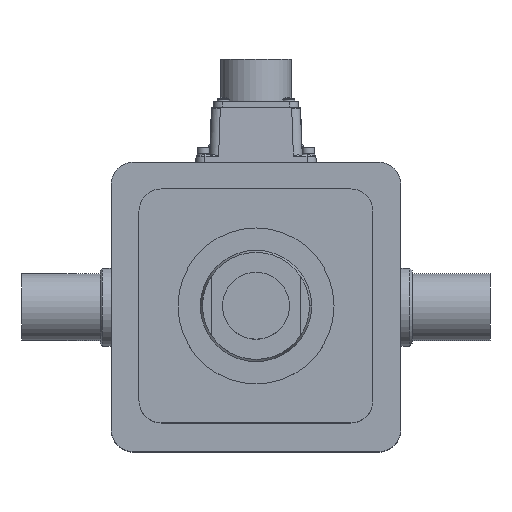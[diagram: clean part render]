
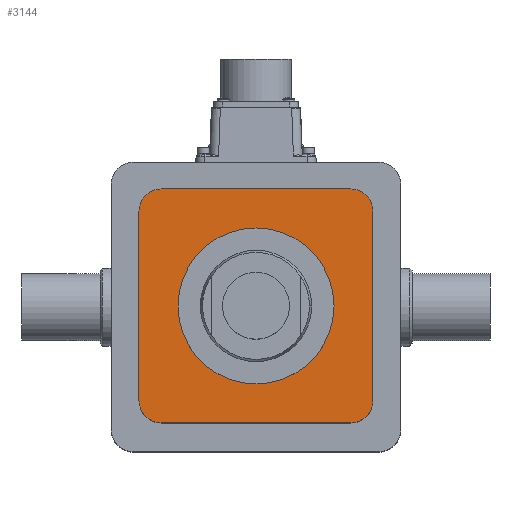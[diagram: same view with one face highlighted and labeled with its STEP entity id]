
A CAD part, top view. The second image highlights one B-rep face of the part: STEP entity #3144.
In plain terms, the highlighted planar face has unit normal (0, 0, 1).
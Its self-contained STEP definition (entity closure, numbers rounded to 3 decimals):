
#26 = CARTESIAN_POINT ( 'NONE',  ( -52.5, -42.5, 270. ) ) ;
#273 = VECTOR ( 'NONE', #23842, 1000. ) ;
#421 = DIRECTION ( 'NONE',  ( 1., 0., 0. ) ) ;
#730 = DIRECTION ( 'NONE',  ( 0., 0., 1. ) ) ;
#909 = CIRCLE ( 'NONE', #995, 35. ) ;
#995 = AXIS2_PLACEMENT_3D ( 'NONE', #17206, #25403, #21353 ) ;
#1158 = DIRECTION ( 'NONE',  ( 0., 0., 1. ) ) ;
#1294 = VERTEX_POINT ( 'NONE', #25594 ) ;
#1488 = ORIENTED_EDGE ( 'NONE', *, *, #19000, .T. ) ;
#1561 = EDGE_LOOP ( 'NONE', ( #26104, #1628, #8645, #9945, #23417, #1488, #11514, #19516 ) ) ;
#1628 = ORIENTED_EDGE ( 'NONE', *, *, #8615, .T. ) ;
#2061 = AXIS2_PLACEMENT_3D ( 'NONE', #23707, #17018, #14856 ) ;
#3144 = ADVANCED_FACE ( 'NONE', ( #11130, #24617 ), #11836, .T. ) ;
#3844 = VERTEX_POINT ( 'NONE', #26 ) ;
#4744 = VERTEX_POINT ( 'NONE', #26454 ) ;
#4832 = EDGE_CURVE ( 'NONE', #7009, #8920, #26841, .T. ) ;
#4962 = EDGE_CURVE ( 'NONE', #20548, #15926, #909, .T. ) ;
#4981 = EDGE_CURVE ( 'NONE', #1294, #20828, #11713, .T. ) ;
#5990 = ORIENTED_EDGE ( 'NONE', *, *, #19143, .F. ) ;
#6673 = ORIENTED_EDGE ( 'NONE', *, *, #4962, .F. ) ;
#7009 = VERTEX_POINT ( 'NONE', #16277 ) ;
#7690 = LINE ( 'NONE', #8793, #273 ) ;
#8245 = EDGE_LOOP ( 'NONE', ( #5990, #6673 ) ) ;
#8306 = CARTESIAN_POINT ( 'NONE',  ( 42.5, 42.5, 270. ) ) ;
#8553 = CARTESIAN_POINT ( 'NONE',  ( -42.5, -42.5, 270. ) ) ;
#8615 = EDGE_CURVE ( 'NONE', #14632, #1294, #12451, .T. ) ;
#8645 = ORIENTED_EDGE ( 'NONE', *, *, #4981, .T. ) ;
#8793 = CARTESIAN_POINT ( 'NONE',  ( 42.5, -52.5, 270. ) ) ;
#8920 = VERTEX_POINT ( 'NONE', #19650 ) ;
#9436 = DIRECTION ( 'NONE',  ( 0., 0., 1. ) ) ;
#9945 = ORIENTED_EDGE ( 'NONE', *, *, #12360, .T. ) ;
#10949 = CARTESIAN_POINT ( 'NONE',  ( 35., 0., 270. ) ) ;
#11130 = FACE_OUTER_BOUND ( 'NONE', #1561, .T. ) ;
#11315 = CIRCLE ( 'NONE', #17895, 10. ) ;
#11514 = ORIENTED_EDGE ( 'NONE', *, *, #13639, .T. ) ;
#11713 = CIRCLE ( 'NONE', #2061, 10. ) ;
#11836 = PLANE ( 'NONE',  #15195 ) ;
#12360 = EDGE_CURVE ( 'NONE', #20828, #3844, #21034, .T. ) ;
#12451 = LINE ( 'NONE', #19862, #26216 ) ;
#12744 = EDGE_CURVE ( 'NONE', #8920, #14632, #19991, .T. ) ;
#13196 = AXIS2_PLACEMENT_3D ( 'NONE', #27046, #1158, #16311 ) ;
#13639 = EDGE_CURVE ( 'NONE', #4744, #7009, #17247, .T. ) ;
#14632 = VERTEX_POINT ( 'NONE', #16744 ) ;
#14769 = AXIS2_PLACEMENT_3D ( 'NONE', #17884, #730, #24481 ) ;
#14856 = DIRECTION ( 'NONE',  ( -1., 0., 0. ) ) ;
#15195 = AXIS2_PLACEMENT_3D ( 'NONE', #26871, #9436, #421 ) ;
#15926 = VERTEX_POINT ( 'NONE', #23455 ) ;
#16277 = CARTESIAN_POINT ( 'NONE',  ( 52.5, -42.5, 270. ) ) ;
#16311 = DIRECTION ( 'NONE',  ( -1., 0., 0. ) ) ;
#16744 = CARTESIAN_POINT ( 'NONE',  ( 42.5, 52.5, 270. ) ) ;
#17018 = DIRECTION ( 'NONE',  ( 0., 0., 1. ) ) ;
#17206 = CARTESIAN_POINT ( 'NONE',  ( 0., 0., 270. ) ) ;
#17247 = CIRCLE ( 'NONE', #13196, 10. ) ;
#17884 = CARTESIAN_POINT ( 'NONE',  ( 0., 0., 270. ) ) ;
#17895 = AXIS2_PLACEMENT_3D ( 'NONE', #8553, #27062, #23124 ) ;
#17961 = DIRECTION ( 'NONE',  ( -1., 0., 0. ) ) ;
#18453 = DIRECTION ( 'NONE',  ( 0., 1., 0. ) ) ;
#18756 = DIRECTION ( 'NONE',  ( 1., 0., 0. ) ) ;
#19000 = EDGE_CURVE ( 'NONE', #22587, #4744, #7690, .T. ) ;
#19143 = EDGE_CURVE ( 'NONE', #15926, #20548, #21835, .T. ) ;
#19516 = ORIENTED_EDGE ( 'NONE', *, *, #4832, .T. ) ;
#19650 = CARTESIAN_POINT ( 'NONE',  ( 52.5, 42.5, 270. ) ) ;
#19794 = CARTESIAN_POINT ( 'NONE',  ( -52.5, -42.5, 270. ) ) ;
#19862 = CARTESIAN_POINT ( 'NONE',  ( 42.5, 52.5, 270. ) ) ;
#19991 = CIRCLE ( 'NONE', #22723, 10. ) ;
#20548 = VERTEX_POINT ( 'NONE', #10949 ) ;
#20828 = VERTEX_POINT ( 'NONE', #23074 ) ;
#21034 = LINE ( 'NONE', #19794, #26071 ) ;
#21353 = DIRECTION ( 'NONE',  ( 1., 0., 0. ) ) ;
#21835 = CIRCLE ( 'NONE', #14769, 35. ) ;
#22498 = CARTESIAN_POINT ( 'NONE',  ( 52.5, -42.5, 270. ) ) ;
#22558 = CARTESIAN_POINT ( 'NONE',  ( -42.5, -52.5, 270. ) ) ;
#22587 = VERTEX_POINT ( 'NONE', #22558 ) ;
#22723 = AXIS2_PLACEMENT_3D ( 'NONE', #8306, #27681, #18756 ) ;
#23074 = CARTESIAN_POINT ( 'NONE',  ( -52.5, 42.5, 270. ) ) ;
#23124 = DIRECTION ( 'NONE',  ( -1., 0., 0. ) ) ;
#23417 = ORIENTED_EDGE ( 'NONE', *, *, #24926, .T. ) ;
#23455 = CARTESIAN_POINT ( 'NONE',  ( -35., 0., 270. ) ) ;
#23707 = CARTESIAN_POINT ( 'NONE',  ( -42.5, 42.5, 270. ) ) ;
#23842 = DIRECTION ( 'NONE',  ( 1., 0., 0. ) ) ;
#24128 = DIRECTION ( 'NONE',  ( 0., -1., 0. ) ) ;
#24481 = DIRECTION ( 'NONE',  ( 1., 0., 0. ) ) ;
#24617 = FACE_BOUND ( 'NONE', #8245, .T. ) ;
#24926 = EDGE_CURVE ( 'NONE', #3844, #22587, #11315, .T. ) ;
#25403 = DIRECTION ( 'NONE',  ( 0., 0., 1. ) ) ;
#25594 = CARTESIAN_POINT ( 'NONE',  ( -42.5, 52.5, 270. ) ) ;
#26071 = VECTOR ( 'NONE', #24128, 1000. ) ;
#26104 = ORIENTED_EDGE ( 'NONE', *, *, #12744, .T. ) ;
#26216 = VECTOR ( 'NONE', #17961, 1000. ) ;
#26454 = CARTESIAN_POINT ( 'NONE',  ( 42.5, -52.5, 270. ) ) ;
#26841 = LINE ( 'NONE', #22498, #27884 ) ;
#26871 = CARTESIAN_POINT ( 'NONE',  ( 42.5, 42.5, 270. ) ) ;
#27046 = CARTESIAN_POINT ( 'NONE',  ( 42.5, -42.5, 270. ) ) ;
#27062 = DIRECTION ( 'NONE',  ( 0., 0., 1. ) ) ;
#27681 = DIRECTION ( 'NONE',  ( 0., 0., 1. ) ) ;
#27884 = VECTOR ( 'NONE', #18453, 1000. ) ;
